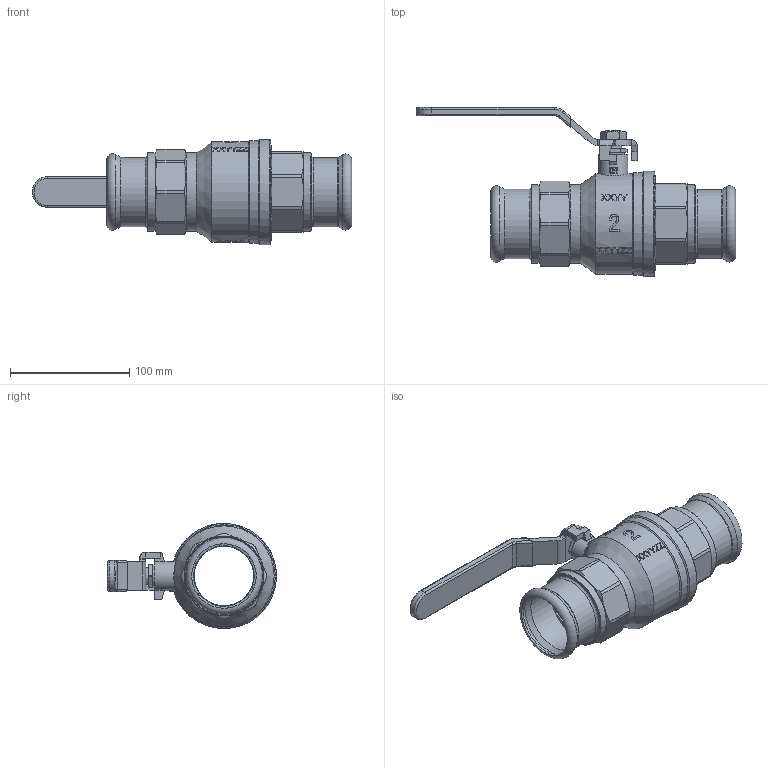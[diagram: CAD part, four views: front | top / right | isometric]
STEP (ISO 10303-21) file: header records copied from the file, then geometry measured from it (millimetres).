
FILE_DESCRIPTION((''),'2;1');
FILE_NAME('P:\Fastrack\53972_CRANE 3D\Press Fit\HANDLES\54MM.stp','2012-01-17T14:05:48',('dcole'),(''),'Autodesk Inventor 2008','Autodesk Inventor 2008','');
FILE_SCHEMA(('AUTOMOTIVE_DESIGN { 1 0 10303 214 1 1 1 1 }'));
Length unit declared in the file: millimetre
Products named in the file (1): 54MM
Bounding box: 267.5 x 141.5 x 88 mm (x, y, z)
Volume: 352465.2 mm3; surface area: 148048.7 mm2
Topology: 1 solids, 8 shells, 859 faces, 2568 edges, 1844 vertices
Faces by surface type: plane 423, bspline 201, cylinder 132, cone 81, torus 19, sphere 3
Full cylindrical faces by diameter (mm): 3 x2, 14 x1, 14.1 x2, 14.5 x1, 16 x1, 16.5 x1, 18 x1, 18.3 x1, 18.5 x2, 24.5 x1, 38 x1, 50 x5, 54 x4, 56.2 x2, 56.656 x2, 58 x2, 60 x2, 60.2 x2, 61 x4, 65.8 x2, 66 x1, 73 x1, 79 x1, 81 x1, 81.2 x1, 84 x1, 86 x1, 88 x1
Entity records: 67441 total; most frequent: CARTESIAN_POINT 45466, ORIENTED_EDGE 4798, DIRECTION 3488, EDGE_CURVE 2399, VERTEX_POINT 1790, AXIS2_PLACEMENT_3D 1163, VECTOR 1162, LINE 1162
